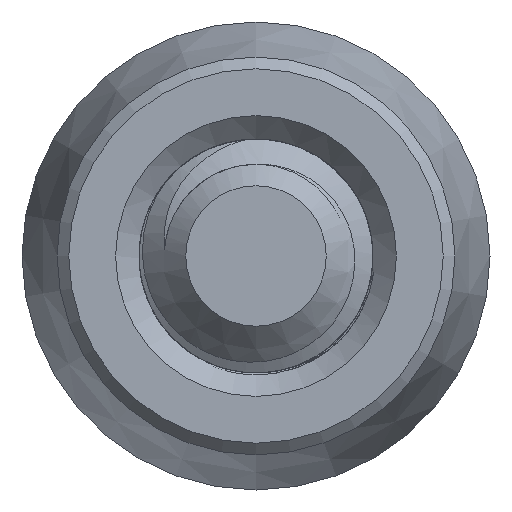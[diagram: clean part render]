
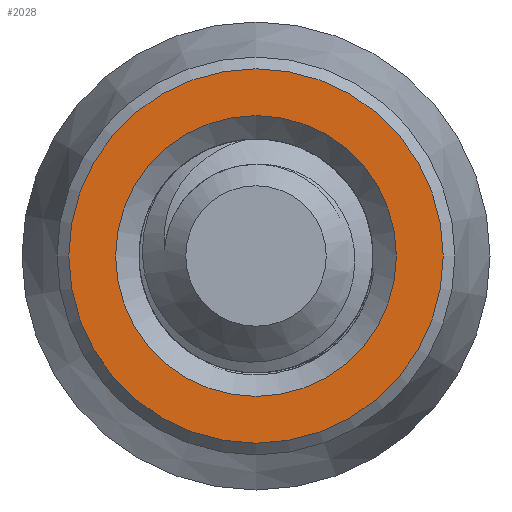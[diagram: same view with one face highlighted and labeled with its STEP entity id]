
A CAD part, front view. The second image highlights one B-rep face of the part: STEP entity #2028.
In plain terms, the highlighted planar face has unit normal (0, -1, 0).
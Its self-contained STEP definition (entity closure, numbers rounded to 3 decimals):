
#99 = AXIS2_PLACEMENT_3D ( 'NONE', #2057, #3069, #6341 ) ;
#368 = CIRCLE ( 'NONE', #695, 1.6 ) ;
#449 = CARTESIAN_POINT ( 'NONE',  ( 0., 0., 1.6 ) ) ;
#695 = AXIS2_PLACEMENT_3D ( 'NONE', #5803, #2090, #3731 ) ;
#783 = EDGE_CURVE ( 'NONE', #963, #963, #368, .T. ) ;
#963 = VERTEX_POINT ( 'NONE', #449 ) ;
#1117 = VERTEX_POINT ( 'NONE', #3103 ) ;
#1131 = DIRECTION ( 'NONE',  ( 0., 0., 1. ) ) ;
#1740 = EDGE_CURVE ( 'NONE', #1117, #1117, #6333, .T. ) ;
#1980 = EDGE_LOOP ( 'NONE', ( #4062 ) ) ;
#2028 = ADVANCED_FACE ( 'NONE', ( #4546, #3873 ), #4718, .F. ) ;
#2057 = CARTESIAN_POINT ( 'NONE',  ( -1.7, 0., 0. ) ) ;
#2090 = DIRECTION ( 'NONE',  ( 0., -1., 0. ) ) ;
#3069 = DIRECTION ( 'NONE',  ( 0., 1., 0. ) ) ;
#3103 = CARTESIAN_POINT ( 'NONE',  ( 0., 0., 1.2 ) ) ;
#3252 = DIRECTION ( 'NONE',  ( 0., 1., 0. ) ) ;
#3731 = DIRECTION ( 'NONE',  ( 0., 0., 1. ) ) ;
#3873 = FACE_OUTER_BOUND ( 'NONE', #4368, .T. ) ;
#4062 = ORIENTED_EDGE ( 'NONE', *, *, #1740, .T. ) ;
#4368 = EDGE_LOOP ( 'NONE', ( #6200 ) ) ;
#4546 = FACE_BOUND ( 'NONE', #1980, .T. ) ;
#4718 = PLANE ( 'NONE',  #99 ) ;
#5803 = CARTESIAN_POINT ( 'NONE',  ( 0., 0., 0. ) ) ;
#6200 = ORIENTED_EDGE ( 'NONE', *, *, #783, .T. ) ;
#6243 = AXIS2_PLACEMENT_3D ( 'NONE', #6465, #3252, #1131 ) ;
#6333 = CIRCLE ( 'NONE', #6243, 1.2 ) ;
#6341 = DIRECTION ( 'NONE',  ( 0., 0., 1. ) ) ;
#6465 = CARTESIAN_POINT ( 'NONE',  ( 0., 0., 0. ) ) ;
